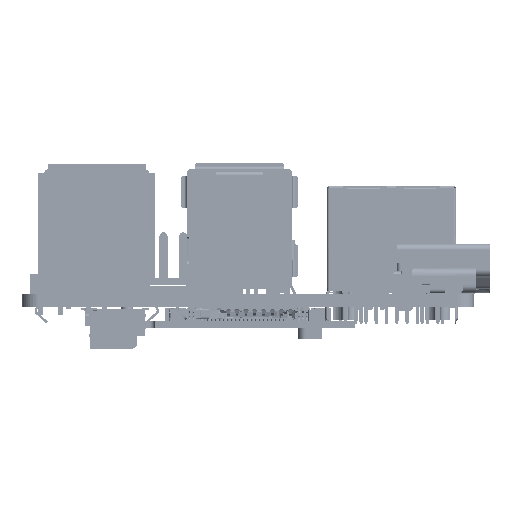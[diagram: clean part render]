
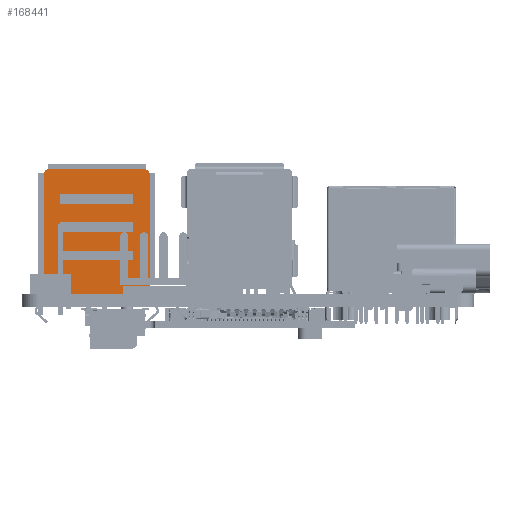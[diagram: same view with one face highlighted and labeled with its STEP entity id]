
A CAD part, left-side view. The second image highlights one B-rep face of the part: STEP entity #168441.
In plain terms, the highlighted planar face has unit normal (-1, 0, 0) as drawn and (0, -1, 0) by its records, which use the part's own axes.
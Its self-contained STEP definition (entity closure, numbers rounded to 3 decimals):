
#166244=CARTESIAN_POINT('',(-5.95,0.,-6.55));
#166245=DIRECTION('',(0.,-1.,0.));
#166246=DIRECTION('',(-1.,0.,0.));
#166247=AXIS2_PLACEMENT_3D('',#166244,#166245,#166246);
#166249=DIRECTION('',(0.,0.,1.));
#166250=VECTOR('',#166249,14.85);
#166251=CARTESIAN_POINT('',(-6.55,0.,-6.55));
#166252=LINE('',#166251,#166250);
#166253=DIRECTION('',(0.,0.,-1.));
#166254=VECTOR('',#166253,14.85);
#166255=CARTESIAN_POINT('',(6.55,0.,8.3));
#166256=LINE('',#166255,#166254);
#166257=CARTESIAN_POINT('',(5.95,0.,-6.55));
#166258=DIRECTION('',(0.,-1.,0.));
#166259=DIRECTION('',(0.,0.,-1.));
#166260=AXIS2_PLACEMENT_3D('',#166257,#166258,#166259);
#166262=DIRECTION('',(0.,0.,1.));
#166263=VECTOR('',#166262,1.2);
#166264=CARTESIAN_POINT('',(-4.55,0.,2.915));
#166265=LINE('',#166264,#166263);
#166266=DIRECTION('',(1.,0.,0.));
#166267=VECTOR('',#166266,9.1);
#166268=CARTESIAN_POINT('',(-4.55,0.,4.115));
#166269=LINE('',#166268,#166267);
#166274=DIRECTION('',(0.,0.,-1.));
#166275=VECTOR('',#166274,1.2);
#166276=CARTESIAN_POINT('',(4.55,0.,4.115));
#166277=LINE('',#166276,#166275);
#166282=DIRECTION('',(-1.,0.,0.));
#166283=VECTOR('',#166282,9.1);
#166284=CARTESIAN_POINT('',(4.55,0.,2.915));
#166285=LINE('',#166284,#166283);
#166310=DIRECTION('',(0.,0.,1.));
#166311=VECTOR('',#166310,1.2);
#166312=CARTESIAN_POINT('',(-4.55,0.,-0.585));
#166313=LINE('',#166312,#166311);
#166318=DIRECTION('',(1.,0.,0.));
#166319=VECTOR('',#166318,9.1);
#166320=CARTESIAN_POINT('',(-4.55,0.,0.615));
#166321=LINE('',#166320,#166319);
#166330=DIRECTION('',(0.,0.,-1.));
#166331=VECTOR('',#166330,1.2);
#166332=CARTESIAN_POINT('',(4.55,0.,0.615));
#166333=LINE('',#166332,#166331);
#166342=DIRECTION('',(-1.,0.,0.));
#166343=VECTOR('',#166342,9.1);
#166344=CARTESIAN_POINT('',(4.55,0.,-0.585));
#166345=LINE('',#166344,#166343);
#166358=DIRECTION('',(0.,0.,1.));
#166359=VECTOR('',#166358,1.2);
#166360=CARTESIAN_POINT('',(-4.55,0.,-4.085));
#166361=LINE('',#166360,#166359);
#166366=DIRECTION('',(1.,0.,0.));
#166367=VECTOR('',#166366,9.1);
#166368=CARTESIAN_POINT('',(-4.55,0.,-2.885));
#166369=LINE('',#166368,#166367);
#166378=DIRECTION('',(0.,0.,-1.));
#166379=VECTOR('',#166378,1.2);
#166380=CARTESIAN_POINT('',(4.55,0.,-2.885));
#166381=LINE('',#166380,#166379);
#166390=DIRECTION('',(-1.,0.,0.));
#166391=VECTOR('',#166390,9.1);
#166392=CARTESIAN_POINT('',(4.55,0.,-4.085));
#166393=LINE('',#166392,#166391);
#166410=DIRECTION('',(1.,0.,0.));
#166411=VECTOR('',#166410,11.9);
#166412=CARTESIAN_POINT('',(-5.95,0.,-7.15));
#166413=LINE('',#166412,#166411);
#166496=DIRECTION('',(1.,0.,0.));
#166497=VECTOR('',#166496,13.1);
#166498=CARTESIAN_POINT('',(-6.55,0.,8.3));
#166499=LINE('',#166498,#166497);
#167864=CARTESIAN_POINT('',(-4.55,0.,2.915));
#167865=CARTESIAN_POINT('',(-4.55,0.,4.115));
#167866=VERTEX_POINT('',#167864);
#167867=VERTEX_POINT('',#167865);
#167868=CARTESIAN_POINT('',(4.55,0.,2.915));
#167869=VERTEX_POINT('',#167868);
#167870=CARTESIAN_POINT('',(4.55,0.,4.115));
#167871=VERTEX_POINT('',#167870);
#167872=CARTESIAN_POINT('',(-4.55,0.,-0.585));
#167873=CARTESIAN_POINT('',(-4.55,0.,0.615));
#167874=VERTEX_POINT('',#167872);
#167875=VERTEX_POINT('',#167873);
#167876=CARTESIAN_POINT('',(4.55,0.,-0.585));
#167877=VERTEX_POINT('',#167876);
#167878=CARTESIAN_POINT('',(4.55,0.,0.615));
#167879=VERTEX_POINT('',#167878);
#167880=CARTESIAN_POINT('',(-4.55,0.,-4.085));
#167881=CARTESIAN_POINT('',(-4.55,0.,-2.885));
#167882=VERTEX_POINT('',#167880);
#167883=VERTEX_POINT('',#167881);
#167884=CARTESIAN_POINT('',(4.55,0.,-4.085));
#167885=VERTEX_POINT('',#167884);
#167886=CARTESIAN_POINT('',(4.55,0.,-2.885));
#167887=VERTEX_POINT('',#167886);
#168144=CARTESIAN_POINT('',(-6.55,0.,8.3));
#168145=CARTESIAN_POINT('',(6.55,0.,8.3));
#168146=VERTEX_POINT('',#168144);
#168147=VERTEX_POINT('',#168145);
#168296=CARTESIAN_POINT('',(-5.95,0.,-7.15));
#168298=VERTEX_POINT('',#168296);
#168310=CARTESIAN_POINT('',(-6.55,0.,-6.55));
#168311=VERTEX_POINT('',#168310);
#168312=CARTESIAN_POINT('',(5.95,0.,-7.15));
#168313=CARTESIAN_POINT('',(6.55,0.,-6.55));
#168314=VERTEX_POINT('',#168312);
#168315=VERTEX_POINT('',#168313);
#168392=CARTESIAN_POINT('',(0.,0.,0.));
#168393=DIRECTION('',(0.,1.,0.));
#168394=DIRECTION('',(1.,0.,0.));
#168395=AXIS2_PLACEMENT_3D('',#168392,#168393,#168394);
#168396=PLANE('',#168395);
#168398=ORIENTED_EDGE('',*,*,#168397,.F.);
#168400=ORIENTED_EDGE('',*,*,#168399,.T.);
#168402=ORIENTED_EDGE('',*,*,#168401,.T.);
#168404=ORIENTED_EDGE('',*,*,#168403,.T.);
#168406=ORIENTED_EDGE('',*,*,#168405,.F.);
#168408=ORIENTED_EDGE('',*,*,#168407,.F.);
#168409=EDGE_LOOP('',(#168398,#168400,#168402,#168404,#168406,#168408));
#168410=FACE_OUTER_BOUND('',#168409,.F.);
#168412=ORIENTED_EDGE('',*,*,#168411,.F.);
#168414=ORIENTED_EDGE('',*,*,#168413,.F.);
#168416=ORIENTED_EDGE('',*,*,#168415,.F.);
#168418=ORIENTED_EDGE('',*,*,#168417,.F.);
#168419=EDGE_LOOP('',(#168412,#168414,#168416,#168418));
#168420=FACE_BOUND('',#168419,.F.);
#168422=ORIENTED_EDGE('',*,*,#168421,.F.);
#168424=ORIENTED_EDGE('',*,*,#168423,.F.);
#168426=ORIENTED_EDGE('',*,*,#168425,.F.);
#168428=ORIENTED_EDGE('',*,*,#168427,.F.);
#168429=EDGE_LOOP('',(#168422,#168424,#168426,#168428));
#168430=FACE_BOUND('',#168429,.F.);
#168432=ORIENTED_EDGE('',*,*,#168431,.F.);
#168434=ORIENTED_EDGE('',*,*,#168433,.F.);
#168436=ORIENTED_EDGE('',*,*,#168435,.F.);
#168438=ORIENTED_EDGE('',*,*,#168437,.F.);
#168439=EDGE_LOOP('',(#168432,#168434,#168436,#168438));
#168440=FACE_BOUND('',#168439,.F.);
#168441=ADVANCED_FACE('',(#168410,#168420,#168430,#168440),#168396,.F.);
#166248=CIRCLE('',#166247,0.6);
#166261=CIRCLE('',#166260,0.6);
#168397=EDGE_CURVE('',#168311,#168298,#166248,.T.);
#168399=EDGE_CURVE('',#168311,#168146,#166252,.T.);
#168401=EDGE_CURVE('',#168146,#168147,#166499,.T.);
#168403=EDGE_CURVE('',#168147,#168315,#166256,.T.);
#168405=EDGE_CURVE('',#168314,#168315,#166261,.T.);
#168407=EDGE_CURVE('',#168298,#168314,#166413,.T.);
#168411=EDGE_CURVE('',#167874,#167875,#166313,.T.);
#168413=EDGE_CURVE('',#167877,#167874,#166345,.T.);
#168415=EDGE_CURVE('',#167879,#167877,#166333,.T.);
#168417=EDGE_CURVE('',#167875,#167879,#166321,.T.);
#168421=EDGE_CURVE('',#167882,#167883,#166361,.T.);
#168423=EDGE_CURVE('',#167885,#167882,#166393,.T.);
#168425=EDGE_CURVE('',#167887,#167885,#166381,.T.);
#168427=EDGE_CURVE('',#167883,#167887,#166369,.T.);
#168431=EDGE_CURVE('',#167866,#167867,#166265,.T.);
#168433=EDGE_CURVE('',#167869,#167866,#166285,.T.);
#168435=EDGE_CURVE('',#167871,#167869,#166277,.T.);
#168437=EDGE_CURVE('',#167867,#167871,#166269,.T.);
